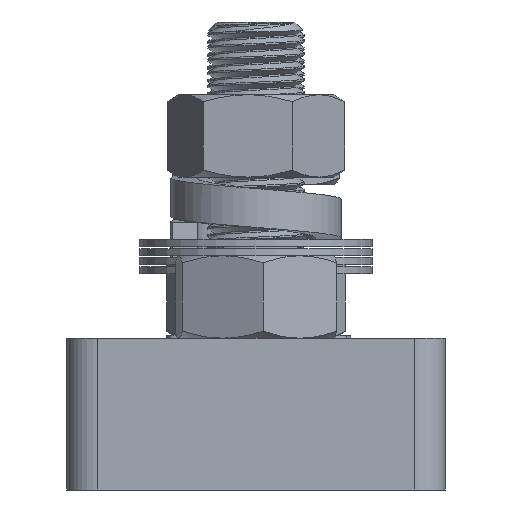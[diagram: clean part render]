
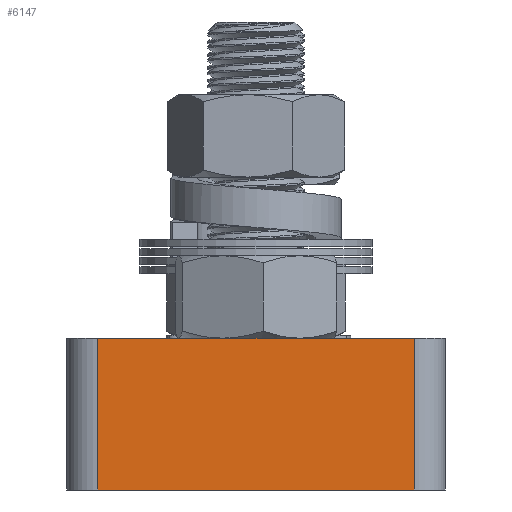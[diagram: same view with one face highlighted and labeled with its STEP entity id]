
A CAD part, left-side view. The second image highlights one B-rep face of the part: STEP entity #6147.
In plain terms, the highlighted planar face has unit normal (-1, 0, 0).
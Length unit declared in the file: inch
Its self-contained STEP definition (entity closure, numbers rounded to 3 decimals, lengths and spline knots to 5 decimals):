
#705=FACE_OUTER_BOUND('',#1072,.T.);
#1072=EDGE_LOOP('',(#4970,#4971,#4972,#4973));
#1711=LINE('',#9902,#2196);
#1757=LINE('',#10062,#2242);
#1805=LINE('',#10161,#2290);
#1806=LINE('',#10163,#2291);
#2196=VECTOR('',#7189,0.3937);
#2242=VECTOR('',#7323,0.3937);
#2290=VECTOR('',#7431,0.3937);
#2291=VECTOR('',#7434,0.3937);
#2691=VERTEX_POINT('',#9898);
#2693=VERTEX_POINT('',#9901);
#2762=VERTEX_POINT('',#10059);
#2763=VERTEX_POINT('',#10061);
#3429=EDGE_CURVE('',#2691,#2693,#1711,.T.);
#3507=EDGE_CURVE('',#2763,#2762,#1757,.T.);
#3560=EDGE_CURVE('',#2763,#2691,#1805,.T.);
#3561=EDGE_CURVE('',#2693,#2762,#1806,.T.);
#4970=ORIENTED_EDGE('',*,*,#3560,.F.);
#4971=ORIENTED_EDGE('',*,*,#3507,.T.);
#4972=ORIENTED_EDGE('',*,*,#3561,.F.);
#4973=ORIENTED_EDGE('',*,*,#3429,.F.);
#5919=PLANE('',#6568);
#6147=ADVANCED_FACE('',(#705),#5919,.T.);
#6568=AXIS2_PLACEMENT_3D('',#10162,#7432,#7433);
#7189=DIRECTION('',(0.,-1.,0.));
#7323=DIRECTION('',(0.,-1.,0.));
#7431=DIRECTION('',(0.,0.,1.));
#7432=DIRECTION('center_axis',(-1.,0.,0.));
#7433=DIRECTION('ref_axis',(0.,-1.,0.));
#7434=DIRECTION('',(0.,0.,-1.));
#9898=CARTESIAN_POINT('',(0.,1.12,0.49));
#9901=CARTESIAN_POINT('',(0.,0.1,0.49));
#9902=CARTESIAN_POINT('',(0.,1.22,0.49));
#10059=CARTESIAN_POINT('',(0.,0.1,0.));
#10061=CARTESIAN_POINT('',(0.,1.12,0.));
#10062=CARTESIAN_POINT('',(0.,1.22,0.));
#10161=CARTESIAN_POINT('',(0.,1.12,0.));
#10162=CARTESIAN_POINT('Origin',(0.,1.22,0.));
#10163=CARTESIAN_POINT('',(0.,0.1,0.));
